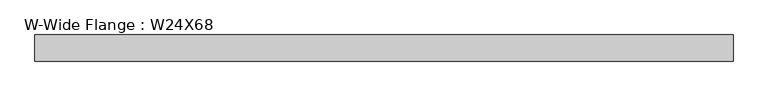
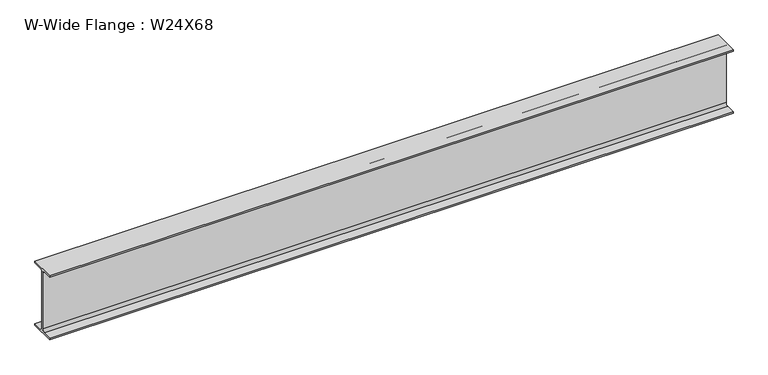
"""IFC4 building model written with IfcOpenShell, lengths in millimetres: beam geometry, W-Wide Flange : W24X68."""

from ifc_helpers import new_model, si_unit, point, frame, frame_2d, origin, place, context, project, spatial, polyline, circle_curve, trimmed, segment, composite_curve, outline, extrude, source, transform, mapped, element, save


def w_wide_flange_w24x68_52fdc458(model_context):
    return source(origin(), model_context, "Body", "SweptSolid", [
        extrude(outline(composite_curve([segment(polyline([(113.919, -286.131), (113.919, -300.99), (-113.919, -300.99), (-113.919, -286.131), (-28.5115, -286.131)]), True, "CONTINUOUS"), segment(trimmed(circle_curve(frame_2d((-28.5115, -262.89)), 23.241), [point((-28.5115, -286.131))], [point((-5.2705, -262.89))], True, "CARTESIAN"), True, "CONTINUOUS"), segment(polyline([(-5.2705, -262.89), (-5.2705, 262.89)]), True, "CONTINUOUS"), segment(trimmed(circle_curve(frame_2d((-28.5115, 262.89)), 23.241), [point((-5.2705, 262.89))], [point((-28.5115, 286.131))], True, "CARTESIAN"), True, "CONTINUOUS"), segment(polyline([(-28.5115, 286.131), (-113.919, 286.131), (-113.919, 300.99), (113.919, 300.99), (113.919, 286.131), (28.5115, 286.131)]), True, "CONTINUOUS"), segment(trimmed(circle_curve(frame_2d((28.5115, 262.89)), 23.241), [point((28.5115, 286.131))], [point((5.2705, 262.89))], True, "CARTESIAN"), True, "CONTINUOUS"), segment(polyline([(5.2705, 262.89), (5.2705, -262.89)]), True, "CONTINUOUS"), segment(trimmed(circle_curve(frame_2d((28.5115, -262.89)), 23.241), [point((5.2705, -262.89))], [point((28.5115, -286.131))], True, "CARTESIAN"), True, "CONTINUOUS"), segment(polyline([(28.5115, -286.131), (113.919, -286.131)]), True, "CONTINUOUS")], self_intersect=False)), frame((-3074.2955674, 0.0, 0.0), z_axis=(1.0, 0.0, 0.0), x_axis=(0.0, 1.0, 0.0)), (0.0, 0.0, 1.0), 6093.0286348),
    ])


if __name__ == "__main__":
    model = new_model("IFC4")
    model_context = context("Model", 3, world=origin())
    ifc_project = project(units=[si_unit("LENGTHUNIT", "METRE", prefix="MILLI")], contexts=[model_context])
    site = spatial("IfcSite", under=ifc_project)
    building = spatial("IfcBuilding", under=site)
    placement = place(None, origin())
    w_wide_flange_w24x68_shape = w_wide_flange_w24x68_52fdc458(model_context)
    element("IfcBeam", 1, ObjectType="W-Wide Flange : W24X68", at=placement, inside=building, context=model_context, shape_type="MappedRepresentation", body=[
        mapped(w_wide_flange_w24x68_shape, transform((0.0, 0.0, 0.0), x_axis=(1.0, 0.0, 0.0), y_axis=(0.0, 1.0, 0.0), z_axis=(0.0, 0.0, 1.0))),
    ])
    save(model, "model.ifc")
